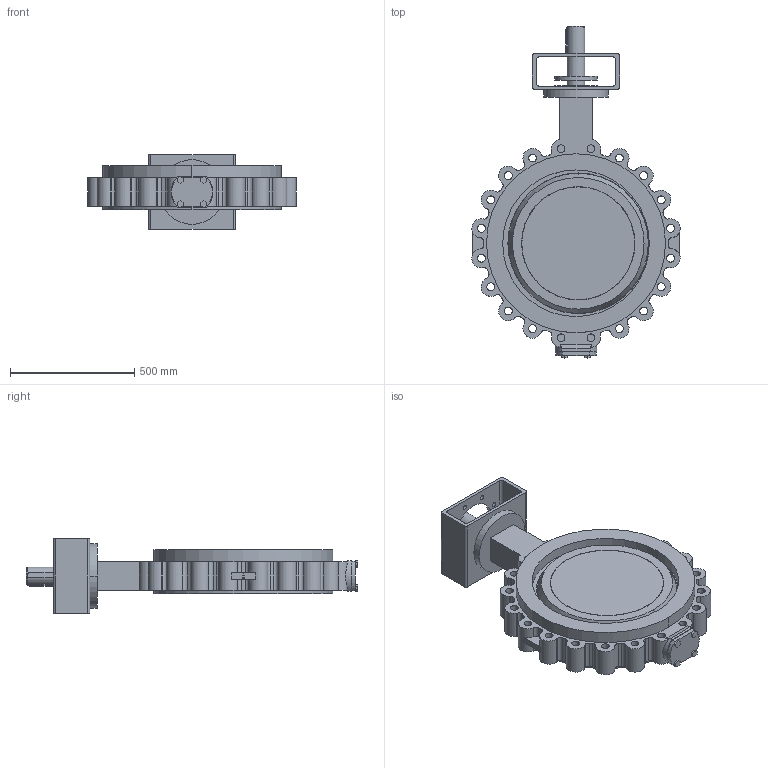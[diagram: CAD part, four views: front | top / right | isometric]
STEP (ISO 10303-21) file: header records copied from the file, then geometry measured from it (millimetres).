
FILE_DESCRIPTION( ( '' ), '1' );
FILE_NAME( 'F:/DE-SHS/TB/OR/04-Sonstiges/daten/files_3d/018_ZETRIX-PN10_freiesWellende/c000006378.stp', '2016-09-01T11:05:34', ( '' ), ( '' ), ' ', ' ', ' ' );
FILE_SCHEMA( ( 'CONFIG_CONTROL_DESIGN' ) );
Length unit declared in the file: millimetre
Products named in the file (1): 1
Bounding box: 837.48 x 1335 x 300 mm (x, y, z)
Volume: 68041310.2 mm3; surface area: 3080494.9 mm2
Topology: 1 solids, 1 shells, 356 faces, 990 edges, 658 vertices
Faces by surface type: cylinder 234, plane 114, cone 4, sphere 4
Entity records: 12646 total; most frequent: CARTESIAN_POINT 2903, DIRECTION 2170, ORIENTED_EDGE 1980, EDGE_CURVE 990, AXIS2_PLACEMENT_3D 855, VERTEX_POINT 658, CIRCLE 494, LINE 460
